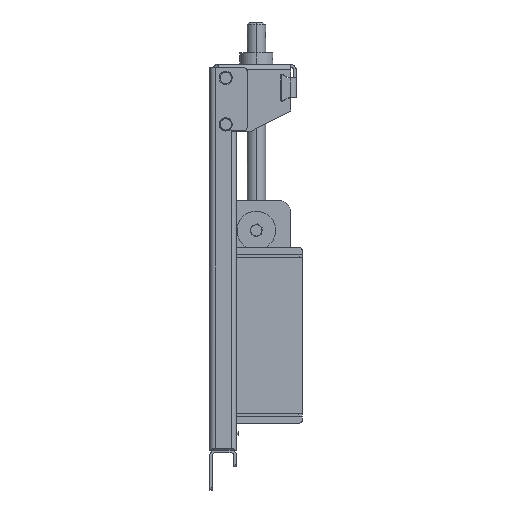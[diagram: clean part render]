
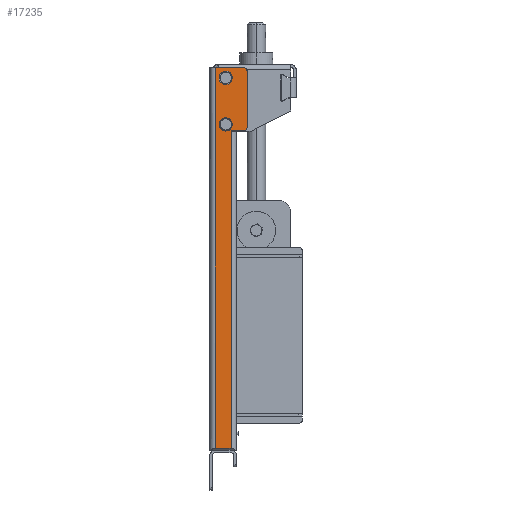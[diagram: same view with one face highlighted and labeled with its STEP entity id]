
A CAD part, left-side view. The second image highlights one B-rep face of the part: STEP entity #17235.
In plain terms, the highlighted planar face has unit normal (-1, 0, 0).
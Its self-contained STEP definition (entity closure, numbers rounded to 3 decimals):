
#340 = CARTESIAN_POINT ( 'NONE',  ( -190., -32., 3. ) ) ;
#1791 = CARTESIAN_POINT ( 'NONE',  ( -190., -32., 296.346 ) ) ;
#2030 = EDGE_CURVE ( 'NONE', #28581, #57180, #11570, .T. ) ;
#2240 = VERTEX_POINT ( 'NONE', #54117 ) ;
#2597 = DIRECTION ( 'NONE',  ( 0., 1., 0. ) ) ;
#2822 = ORIENTED_EDGE ( 'NONE', *, *, #12808, .F. ) ;
#6409 = VERTEX_POINT ( 'NONE', #340 ) ;
#6663 = DIRECTION ( 'NONE',  ( 0., 1., 0. ) ) ;
#7749 = VECTOR ( 'NONE', #64695, 1000. ) ;
#8017 = VECTOR ( 'NONE', #6663, 1000. ) ;
#8183 = ORIENTED_EDGE ( 'NONE', *, *, #18256, .T. ) ;
#9231 = CARTESIAN_POINT ( 'NONE',  ( -190., -52., 571. ) ) ;
#10485 = EDGE_CURVE ( 'NONE', #49462, #56862, #60435, .T. ) ;
#11509 = CARTESIAN_POINT ( 'NONE',  ( -190., -32., 296.346 ) ) ;
#11570 = LINE ( 'NONE', #52836, #7749 ) ;
#12808 = EDGE_CURVE ( 'NONE', #61606, #28581, #46195, .T. ) ;
#12996 = CARTESIAN_POINT ( 'NONE',  ( -190., -24., 490. ) ) ;
#13241 = EDGE_CURVE ( 'NONE', #2240, #70402, #38647, .T. ) ;
#13518 = FACE_BOUND ( 'NONE', #31699, .T. ) ;
#13623 = LINE ( 'NONE', #49389, #8017 ) ;
#13909 = CIRCLE ( 'NONE', #37649, 4. ) ;
#14003 = CIRCLE ( 'NONE', #47914, 5.75 ) ;
#14218 = CARTESIAN_POINT ( 'NONE',  ( -190., -8., 287.5 ) ) ;
#14902 = CARTESIAN_POINT ( 'NONE',  ( -190., -24., 490. ) ) ;
#17235 = ADVANCED_FACE ( 'NONE', ( #13518, #21959, #67934 ), #50417, .F. ) ;
#18256 = EDGE_CURVE ( 'NONE', #64452, #42741, #27163, .T. ) ;
#18298 = EDGE_CURVE ( 'NONE', #42741, #64452, #14003, .T. ) ;
#18486 = VERTEX_POINT ( 'NONE', #39940 ) ;
#18810 = LINE ( 'NONE', #11509, #60081 ) ;
#18902 = CIRCLE ( 'NONE', #77410, 5.75 ) ;
#20168 = DIRECTION ( 'NONE',  ( 1., 0., 0. ) ) ;
#20524 = CARTESIAN_POINT ( 'NONE',  ( -190., -32., 481. ) ) ;
#21017 = DIRECTION ( 'NONE',  ( 0., 0., 1. ) ) ;
#21959 = FACE_BOUND ( 'NONE', #34780, .T. ) ;
#22055 = LINE ( 'NONE', #20524, #52037 ) ;
#22712 = VECTOR ( 'NONE', #61535, 1000. ) ;
#23173 = CARTESIAN_POINT ( 'NONE',  ( -190., -8., 3. ) ) ;
#24114 = DIRECTION ( 'NONE',  ( 0., 0., -1. ) ) ;
#24831 = DIRECTION ( 'NONE',  ( 0., 1., 0. ) ) ;
#25559 = DIRECTION ( 'NONE',  ( 0., 1., 0. ) ) ;
#26265 = VECTOR ( 'NONE', #70953, 1000. ) ;
#27077 = CARTESIAN_POINT ( 'NONE',  ( -190., -22.399, 296.346 ) ) ;
#27163 = CIRCLE ( 'NONE', #41364, 5.75 ) ;
#28016 = CARTESIAN_POINT ( 'NONE',  ( -190., -52., 485. ) ) ;
#28581 = VERTEX_POINT ( 'NONE', #38454 ) ;
#30041 = DIRECTION ( 'NONE',  ( 1., 0., 0. ) ) ;
#30646 = CARTESIAN_POINT ( 'NONE',  ( -190., -8., 575. ) ) ;
#31291 = CARTESIAN_POINT ( 'NONE',  ( -190., -24., 560. ) ) ;
#31699 = EDGE_LOOP ( 'NONE', ( #49701, #8183 ) ) ;
#34780 = EDGE_LOOP ( 'NONE', ( #48565, #40248 ) ) ;
#36843 = ORIENTED_EDGE ( 'NONE', *, *, #56554, .F. ) ;
#37649 = AXIS2_PLACEMENT_3D ( 'NONE', #28016, #40588, #69738 ) ;
#38454 = CARTESIAN_POINT ( 'NONE',  ( -190., -56., 571. ) ) ;
#38647 = LINE ( 'NONE', #1791, #22712 ) ;
#39129 = DIRECTION ( 'NONE',  ( 0., 1., 0. ) ) ;
#39940 = CARTESIAN_POINT ( 'NONE',  ( -190., -18.25, 490. ) ) ;
#40248 = ORIENTED_EDGE ( 'NONE', *, *, #67722, .T. ) ;
#40588 = DIRECTION ( 'NONE',  ( 1., 0., 0. ) ) ;
#41364 = AXIS2_PLACEMENT_3D ( 'NONE', #31291, #73279, #25559 ) ;
#41569 = CARTESIAN_POINT ( 'NONE',  ( -190., -52., 481. ) ) ;
#41822 = CIRCLE ( 'NONE', #48725, 5.75 ) ;
#42741 = VERTEX_POINT ( 'NONE', #71237 ) ;
#44898 = ORIENTED_EDGE ( 'NONE', *, *, #48206, .F. ) ;
#45153 = DIRECTION ( 'NONE',  ( 1., 0., 0. ) ) ;
#45351 = DIRECTION ( 'NONE',  ( 1., 0., 0. ) ) ;
#45474 = CARTESIAN_POINT ( 'NONE',  ( -190., -29.75, 560. ) ) ;
#46195 = CIRCLE ( 'NONE', #73541, 4. ) ;
#46327 = CARTESIAN_POINT ( 'NONE',  ( -190., -56., 485. ) ) ;
#47846 = LINE ( 'NONE', #58271, #26265 ) ;
#47914 = AXIS2_PLACEMENT_3D ( 'NONE', #62497, #45153, #50962 ) ;
#48206 = EDGE_CURVE ( 'NONE', #57180, #51382, #13909, .T. ) ;
#48565 = ORIENTED_EDGE ( 'NONE', *, *, #55314, .T. ) ;
#48725 = AXIS2_PLACEMENT_3D ( 'NONE', #14902, #20168, #2597 ) ;
#49389 = CARTESIAN_POINT ( 'NONE',  ( -190., -13.2, 3. ) ) ;
#49462 = VERTEX_POINT ( 'NONE', #23173 ) ;
#49701 = ORIENTED_EDGE ( 'NONE', *, *, #18298, .T. ) ;
#50172 = VECTOR ( 'NONE', #21017, 1000. ) ;
#50417 = PLANE ( 'NONE',  #55318 ) ;
#50962 = DIRECTION ( 'NONE',  ( 0., 1., 0. ) ) ;
#51382 = VERTEX_POINT ( 'NONE', #41569 ) ;
#51915 = DIRECTION ( 'NONE',  ( 0., 1., 0. ) ) ;
#52037 = VECTOR ( 'NONE', #68519, 1000. ) ;
#52836 = CARTESIAN_POINT ( 'NONE',  ( -190., -56., 481. ) ) ;
#53644 = ORIENTED_EDGE ( 'NONE', *, *, #62154, .F. ) ;
#54117 = CARTESIAN_POINT ( 'NONE',  ( -190., -32., 481. ) ) ;
#55175 = VERTEX_POINT ( 'NONE', #71018 ) ;
#55314 = EDGE_CURVE ( 'NONE', #18486, #55175, #18902, .T. ) ;
#55318 = AXIS2_PLACEMENT_3D ( 'NONE', #27077, #56406, #39129 ) ;
#56406 = DIRECTION ( 'NONE',  ( 1., 0., 0. ) ) ;
#56554 = EDGE_CURVE ( 'NONE', #51382, #2240, #22055, .T. ) ;
#56862 = VERTEX_POINT ( 'NONE', #30646 ) ;
#57180 = VERTEX_POINT ( 'NONE', #46327 ) ;
#58271 = CARTESIAN_POINT ( 'NONE',  ( -190., -36., 575. ) ) ;
#59368 = CARTESIAN_POINT ( 'NONE',  ( -190., -32., 480. ) ) ;
#60081 = VECTOR ( 'NONE', #24114, 1000. ) ;
#60189 = ORIENTED_EDGE ( 'NONE', *, *, #60583, .F. ) ;
#60435 = LINE ( 'NONE', #14218, #50172 ) ;
#60583 = EDGE_CURVE ( 'NONE', #70402, #6409, #18810, .T. ) ;
#61535 = DIRECTION ( 'NONE',  ( 0., 0., -1. ) ) ;
#61606 = VERTEX_POINT ( 'NONE', #70377 ) ;
#62154 = EDGE_CURVE ( 'NONE', #56862, #61606, #47846, .T. ) ;
#62404 = ORIENTED_EDGE ( 'NONE', *, *, #72197, .F. ) ;
#62497 = CARTESIAN_POINT ( 'NONE',  ( -190., -24., 560. ) ) ;
#63762 = ORIENTED_EDGE ( 'NONE', *, *, #2030, .F. ) ;
#64452 = VERTEX_POINT ( 'NONE', #45474 ) ;
#64695 = DIRECTION ( 'NONE',  ( 0., 0., -1. ) ) ;
#67308 = ORIENTED_EDGE ( 'NONE', *, *, #13241, .F. ) ;
#67722 = EDGE_CURVE ( 'NONE', #55175, #18486, #41822, .T. ) ;
#67934 = FACE_OUTER_BOUND ( 'NONE', #70368, .T. ) ;
#68519 = DIRECTION ( 'NONE',  ( 0., 1., 0. ) ) ;
#69738 = DIRECTION ( 'NONE',  ( 0., 1., 0. ) ) ;
#70368 = EDGE_LOOP ( 'NONE', ( #60189, #67308, #36843, #44898, #63762, #2822, #53644, #73594, #62404 ) ) ;
#70377 = CARTESIAN_POINT ( 'NONE',  ( -190., -52., 575. ) ) ;
#70402 = VERTEX_POINT ( 'NONE', #59368 ) ;
#70953 = DIRECTION ( 'NONE',  ( 0., -1., 0. ) ) ;
#71018 = CARTESIAN_POINT ( 'NONE',  ( -190., -29.75, 490. ) ) ;
#71237 = CARTESIAN_POINT ( 'NONE',  ( -190., -18.25, 560. ) ) ;
#72197 = EDGE_CURVE ( 'NONE', #6409, #49462, #13623, .T. ) ;
#73279 = DIRECTION ( 'NONE',  ( 1., 0., 0. ) ) ;
#73541 = AXIS2_PLACEMENT_3D ( 'NONE', #9231, #45351, #51915 ) ;
#73594 = ORIENTED_EDGE ( 'NONE', *, *, #10485, .F. ) ;
#77410 = AXIS2_PLACEMENT_3D ( 'NONE', #12996, #30041, #24831 ) ;
